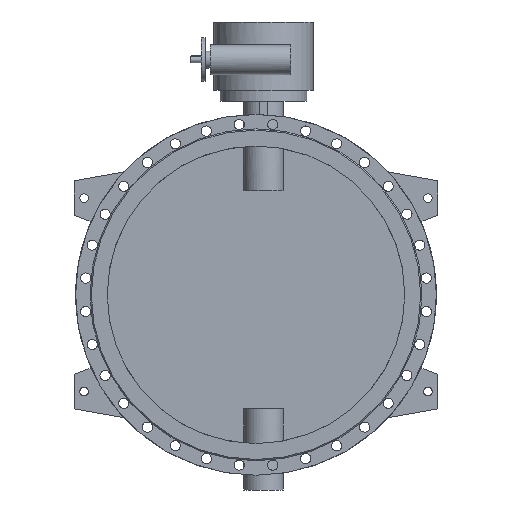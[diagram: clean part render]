
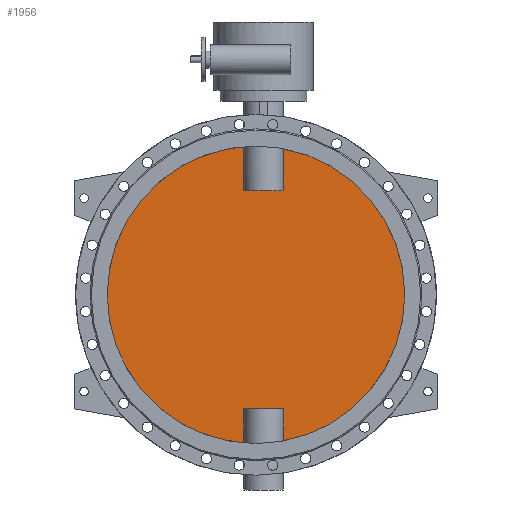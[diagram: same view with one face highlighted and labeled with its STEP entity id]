
A CAD part, front view. The second image highlights one B-rep face of the part: STEP entity #1956.
In plain terms, the highlighted planar face has unit normal (0, -1, 0).
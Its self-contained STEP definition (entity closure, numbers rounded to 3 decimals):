
#1956=ADVANCED_FACE('',(#4140),#4142,.F.);
#4140=FACE_BOUND('',#4141,.T.);
#4141=EDGE_LOOP('',(#5130,#5131,#5132,#5133,#5134,#5135,#5136,#5137));
#4142=PLANE('',#4143);
#4143=AXIS2_PLACEMENT_3D('',#4144,#4145,#4146);
#4144=CARTESIAN_POINT('',(0.,-5.,0.));
#4145=DIRECTION('',(0.,1.,0.));
#4146=DIRECTION('',(1.,0.,0.));
#5130=ORIENTED_EDGE('',*,*,#5625,.T.);
#5131=ORIENTED_EDGE('',*,*,#5631,.T.);
#5132=ORIENTED_EDGE('',*,*,#5632,.T.);
#5133=ORIENTED_EDGE('',*,*,#5633,.T.);
#5134=ORIENTED_EDGE('',*,*,#5627,.T.);
#5135=ORIENTED_EDGE('',*,*,#5634,.T.);
#5136=ORIENTED_EDGE('',*,*,#5635,.T.);
#5137=ORIENTED_EDGE('',*,*,#5636,.T.);
#5625=EDGE_CURVE('',#6457,#6458,#6459,.F.);
#5627=EDGE_CURVE('',#6462,#6460,#6463,.F.);
#5631=EDGE_CURVE('',#6458,#6469,#6470,.T.);
#5632=EDGE_CURVE('',#6469,#6471,#6472,.F.);
#5633=EDGE_CURVE('',#6471,#6462,#6473,.F.);
#5634=EDGE_CURVE('',#6460,#6474,#6475,.F.);
#5635=EDGE_CURVE('',#6474,#6476,#6477,.F.);
#5636=EDGE_CURVE('',#6476,#6457,#6478,.T.);
#6457=VERTEX_POINT('',#9420);
#6458=VERTEX_POINT('',#9421);
#6459=CIRCLE('',#9422,600.);
#6460=VERTEX_POINT('',#9426);
#6462=VERTEX_POINT('',#9520);
#6463=CIRCLE('',#9521,600.);
#6469=VERTEX_POINT('',#9629);
#6470=LINE('',#9630,#9631);
#6471=VERTEX_POINT('',#9633);
#6472=LINE('',#9634,#9635);
#6473=LINE('',#9637,#9638);
#6474=VERTEX_POINT('',#9640);
#6475=LINE('',#9641,#9642);
#6476=VERTEX_POINT('',#9644);
#6477=LINE('',#9645,#9646);
#6478=LINE('',#9648,#9649);
#9420=CARTESIAN_POINT('',(109.844,-5.,-589.86));
#9421=CARTESIAN_POINT('',(109.844,-5.,589.86));
#9422=AXIS2_PLACEMENT_3D('',#9423,#9424,#9425);
#9423=CARTESIAN_POINT('',(0.,-5.,0.));
#9424=DIRECTION('',(0.,1.,0.));
#9425=DIRECTION('',(0.183,0.,0.983));
#9426=CARTESIAN_POINT('',(-49.844,-5.,-597.926));
#9520=CARTESIAN_POINT('',(-49.844,-5.,597.926));
#9521=AXIS2_PLACEMENT_3D('',#9522,#9523,#9524);
#9522=CARTESIAN_POINT('',(0.,-5.,0.));
#9523=DIRECTION('',(0.,1.,0.));
#9524=DIRECTION('',(-0.083,0.,-0.997));
#9629=CARTESIAN_POINT('',(109.844,-5.,420.));
#9630=CARTESIAN_POINT('',(109.844,-5.,589.86));
#9631=VECTOR('',#9632,1.);
#9632=DIRECTION('',(0.,0.,-1.));
#9633=CARTESIAN_POINT('',(-49.844,-5.,420.));
#9634=CARTESIAN_POINT('',(-49.844,-5.,420.));
#9635=VECTOR('',#9636,1.);
#9636=DIRECTION('',(1.,0.,0.));
#9637=CARTESIAN_POINT('',(-49.844,-5.,597.926));
#9638=VECTOR('',#9639,1.);
#9639=DIRECTION('',(0.,0.,-1.));
#9640=CARTESIAN_POINT('',(-49.844,-5.,-460.));
#9641=CARTESIAN_POINT('',(-49.844,-5.,-460.));
#9642=VECTOR('',#9643,1.);
#9643=DIRECTION('',(0.,0.,-1.));
#9644=CARTESIAN_POINT('',(109.844,-5.,-460.));
#9645=CARTESIAN_POINT('',(109.844,-5.,-460.));
#9646=VECTOR('',#9647,1.);
#9647=DIRECTION('',(-1.,0.,0.));
#9648=CARTESIAN_POINT('',(109.844,-5.,-460.));
#9649=VECTOR('',#9650,1.);
#9650=DIRECTION('',(0.,0.,-1.));
